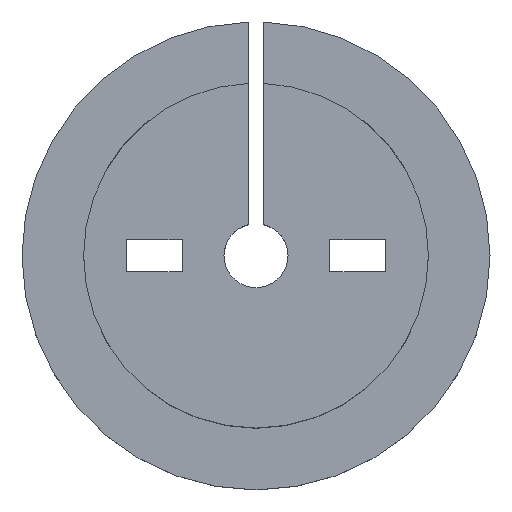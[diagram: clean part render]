
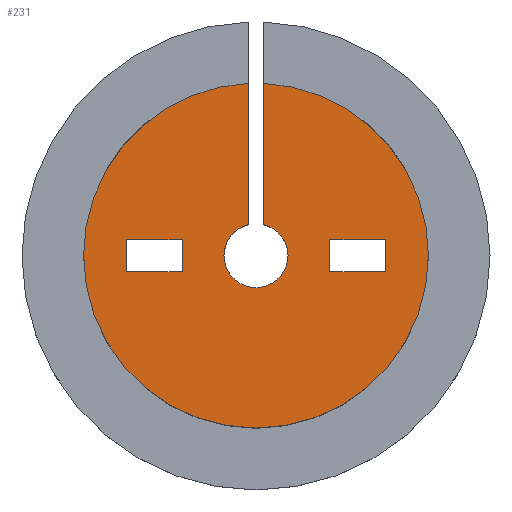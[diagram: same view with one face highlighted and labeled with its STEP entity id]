
A CAD part, top view. The second image highlights one B-rep face of the part: STEP entity #231.
In plain terms, the highlighted planar face has unit normal (0, 0, 1).
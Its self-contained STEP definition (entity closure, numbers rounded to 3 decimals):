
#7 = LINE ( 'NONE', #97, #478 ) ;
#22 = AXIS2_PLACEMENT_3D ( 'NONE', #391, #792, #965 ) ;
#36 = VECTOR ( 'NONE', #99, 1000. ) ;
#45 = VERTEX_POINT ( 'NONE', #733 ) ;
#47 = EDGE_CURVE ( 'NONE', #250, #83, #1061, .T. ) ;
#49 = DIRECTION ( 'NONE',  ( 0., 0., 1. ) ) ;
#63 = CARTESIAN_POINT ( 'NONE',  ( 0.6, 2.53, 16. ) ) ;
#65 = DIRECTION ( 'NONE',  ( 0., -1., 0. ) ) ;
#67 = ORIENTED_EDGE ( 'NONE', *, *, #726, .F. ) ;
#68 = ORIENTED_EDGE ( 'NONE', *, *, #714, .F. ) ;
#70 = CARTESIAN_POINT ( 'NONE',  ( 6., -1.3, 16. ) ) ;
#83 = VERTEX_POINT ( 'NONE', #960 ) ;
#88 = CIRCLE ( 'NONE', #119, 2.6 ) ;
#91 = EDGE_CURVE ( 'NONE', #45, #639, #221, .T. ) ;
#95 = DIRECTION ( 'NONE',  ( 0., 0., 1. ) ) ;
#96 = CARTESIAN_POINT ( 'NONE',  ( -0.6, 13.987, 16. ) ) ;
#97 = CARTESIAN_POINT ( 'NONE',  ( 10.5, 0., 16. ) ) ;
#99 = DIRECTION ( 'NONE',  ( -1., 0., 0. ) ) ;
#117 = DIRECTION ( 'NONE',  ( 0., 0., 1. ) ) ;
#119 = AXIS2_PLACEMENT_3D ( 'NONE', #413, #95, #328 ) ;
#122 = EDGE_CURVE ( 'NONE', #315, #411, #390, .T. ) ;
#136 = AXIS2_PLACEMENT_3D ( 'NONE', #532, #117, #188 ) ;
#150 = DIRECTION ( 'NONE',  ( 0., -1., 0. ) ) ;
#151 = ORIENTED_EDGE ( 'NONE', *, *, #91, .F. ) ;
#168 = DIRECTION ( 'NONE',  ( 0., 1., 0. ) ) ;
#176 = LINE ( 'NONE', #904, #305 ) ;
#179 = CARTESIAN_POINT ( 'NONE',  ( 0., -1.3, 16. ) ) ;
#186 = ORIENTED_EDGE ( 'NONE', *, *, #1018, .F. ) ;
#187 = EDGE_CURVE ( 'NONE', #452, #1026, #589, .T. ) ;
#188 = DIRECTION ( 'NONE',  ( 1., 0., 0. ) ) ;
#200 = CARTESIAN_POINT ( 'NONE',  ( -10.5, 0., 16. ) ) ;
#201 = EDGE_CURVE ( 'NONE', #411, #531, #176, .T. ) ;
#208 = VERTEX_POINT ( 'NONE', #826 ) ;
#213 = VERTEX_POINT ( 'NONE', #96 ) ;
#221 = LINE ( 'NONE', #793, #476 ) ;
#231 = ADVANCED_FACE ( 'NONE', ( #941, #859, #777 ), #1034, .T. ) ;
#237 = DIRECTION ( 'NONE',  ( 0., 0., 1. ) ) ;
#242 = VECTOR ( 'NONE', #245, 1000. ) ;
#245 = DIRECTION ( 'NONE',  ( 0., 1., 0. ) ) ;
#250 = VERTEX_POINT ( 'NONE', #451 ) ;
#259 = DIRECTION ( 'NONE',  ( 1., 0., 0. ) ) ;
#262 = CARTESIAN_POINT ( 'NONE',  ( -0.6, 2.53, 16. ) ) ;
#264 = EDGE_CURVE ( 'NONE', #888, #208, #290, .T. ) ;
#277 = DIRECTION ( 'NONE',  ( 0., 0., 1. ) ) ;
#278 = EDGE_LOOP ( 'NONE', ( #985, #541, #294, #617, #864, #307, #710, #561 ) ) ;
#290 = CIRCLE ( 'NONE', #458, 14. ) ;
#294 = ORIENTED_EDGE ( 'NONE', *, *, #264, .T. ) ;
#295 = CARTESIAN_POINT ( 'NONE',  ( 0., 0., 16. ) ) ;
#305 = VECTOR ( 'NONE', #168, 1000. ) ;
#307 = ORIENTED_EDGE ( 'NONE', *, *, #122, .F. ) ;
#315 = VERTEX_POINT ( 'NONE', #567 ) ;
#323 = CARTESIAN_POINT ( 'NONE',  ( 0., 1.3, 16. ) ) ;
#328 = DIRECTION ( 'NONE',  ( 1., 0., 0. ) ) ;
#329 = DIRECTION ( 'NONE',  ( 0., 0., 1. ) ) ;
#341 = CARTESIAN_POINT ( 'NONE',  ( 0., 0., 16. ) ) ;
#350 = DIRECTION ( 'NONE',  ( 0., -1., 0. ) ) ;
#368 = EDGE_LOOP ( 'NONE', ( #151, #757, #663, #67 ) ) ;
#390 = CIRCLE ( 'NONE', #773, 2.6 ) ;
#391 = CARTESIAN_POINT ( 'NONE',  ( 0., 0., 16. ) ) ;
#406 = CARTESIAN_POINT ( 'NONE',  ( 0.6, 13.987, 16. ) ) ;
#411 = VERTEX_POINT ( 'NONE', #63 ) ;
#412 = CIRCLE ( 'NONE', #136, 2.6 ) ;
#413 = CARTESIAN_POINT ( 'NONE',  ( 0., 0., 16. ) ) ;
#436 = EDGE_CURVE ( 'NONE', #213, #888, #838, .T. ) ;
#446 = LINE ( 'NONE', #179, #802 ) ;
#451 = CARTESIAN_POINT ( 'NONE',  ( -6., 1.3, 16. ) ) ;
#452 = VERTEX_POINT ( 'NONE', #867 ) ;
#458 = AXIS2_PLACEMENT_3D ( 'NONE', #295, #277, #943 ) ;
#476 = VECTOR ( 'NONE', #65, 1000. ) ;
#478 = VECTOR ( 'NONE', #575, 1000. ) ;
#483 = CARTESIAN_POINT ( 'NONE',  ( -6., 0., 16. ) ) ;
#505 = LINE ( 'NONE', #831, #36 ) ;
#508 = VERTEX_POINT ( 'NONE', #903 ) ;
#528 = EDGE_CURVE ( 'NONE', #852, #315, #88, .T. ) ;
#531 = VERTEX_POINT ( 'NONE', #406 ) ;
#532 = CARTESIAN_POINT ( 'NONE',  ( 0., 0., 16. ) ) ;
#541 = ORIENTED_EDGE ( 'NONE', *, *, #436, .T. ) ;
#544 = DIRECTION ( 'NONE',  ( 1., 0., 0. ) ) ;
#561 = ORIENTED_EDGE ( 'NONE', *, *, #786, .F. ) ;
#567 = CARTESIAN_POINT ( 'NONE',  ( 2.6, 0., 16. ) ) ;
#575 = DIRECTION ( 'NONE',  ( 0., 1., 0. ) ) ;
#581 = EDGE_CURVE ( 'NONE', #995, #45, #505, .T. ) ;
#589 = LINE ( 'NONE', #988, #999 ) ;
#609 = EDGE_CURVE ( 'NONE', #208, #531, #656, .T. ) ;
#617 = ORIENTED_EDGE ( 'NONE', *, *, #609, .T. ) ;
#628 = DIRECTION ( 'NONE',  ( 1., 0., 0. ) ) ;
#639 = VERTEX_POINT ( 'NONE', #70 ) ;
#655 = DIRECTION ( 'NONE',  ( -1., 0., 0. ) ) ;
#656 = CIRCLE ( 'NONE', #22, 14. ) ;
#663 = ORIENTED_EDGE ( 'NONE', *, *, #1023, .F. ) ;
#667 = DIRECTION ( 'NONE',  ( 1., 0., 0. ) ) ;
#678 = ORIENTED_EDGE ( 'NONE', *, *, #47, .F. ) ;
#681 = EDGE_CURVE ( 'NONE', #213, #713, #1035, .T. ) ;
#688 = AXIS2_PLACEMENT_3D ( 'NONE', #975, #237, #628 ) ;
#710 = ORIENTED_EDGE ( 'NONE', *, *, #528, .F. ) ;
#713 = VERTEX_POINT ( 'NONE', #262 ) ;
#714 = EDGE_CURVE ( 'NONE', #83, #452, #935, .T. ) ;
#726 = EDGE_CURVE ( 'NONE', #639, #508, #446, .T. ) ;
#733 = CARTESIAN_POINT ( 'NONE',  ( 6., 1.3, 16. ) ) ;
#736 = VECTOR ( 'NONE', #655, 1000. ) ;
#757 = ORIENTED_EDGE ( 'NONE', *, *, #581, .F. ) ;
#773 = AXIS2_PLACEMENT_3D ( 'NONE', #341, #329, #259 ) ;
#777 = FACE_OUTER_BOUND ( 'NONE', #278, .T. ) ;
#786 = EDGE_CURVE ( 'NONE', #713, #852, #412, .T. ) ;
#792 = DIRECTION ( 'NONE',  ( 0., 0., 1. ) ) ;
#793 = CARTESIAN_POINT ( 'NONE',  ( 6., 0., 16. ) ) ;
#802 = VECTOR ( 'NONE', #915, 1000. ) ;
#817 = AXIS2_PLACEMENT_3D ( 'NONE', #1020, #49, #544 ) ;
#826 = CARTESIAN_POINT ( 'NONE',  ( 14., 0., 16. ) ) ;
#827 = LINE ( 'NONE', #483, #242 ) ;
#831 = CARTESIAN_POINT ( 'NONE',  ( 0., 1.3, 16. ) ) ;
#838 = CIRCLE ( 'NONE', #688, 14. ) ;
#852 = VERTEX_POINT ( 'NONE', #961 ) ;
#859 = FACE_BOUND ( 'NONE', #368, .T. ) ;
#864 = ORIENTED_EDGE ( 'NONE', *, *, #201, .F. ) ;
#867 = CARTESIAN_POINT ( 'NONE',  ( -10.5, -1.3, 16. ) ) ;
#873 = VECTOR ( 'NONE', #150, 1000. ) ;
#888 = VERTEX_POINT ( 'NONE', #1037 ) ;
#903 = CARTESIAN_POINT ( 'NONE',  ( 10.5, -1.3, 16. ) ) ;
#904 = CARTESIAN_POINT ( 'NONE',  ( 0.6, 2.2, 16. ) ) ;
#915 = DIRECTION ( 'NONE',  ( 1., 0., 0. ) ) ;
#920 = CARTESIAN_POINT ( 'NONE',  ( 10.5, 1.3, 16. ) ) ;
#935 = LINE ( 'NONE', #200, #1048 ) ;
#938 = ORIENTED_EDGE ( 'NONE', *, *, #187, .F. ) ;
#941 = FACE_BOUND ( 'NONE', #1007, .T. ) ;
#943 = DIRECTION ( 'NONE',  ( 1., 0., 0. ) ) ;
#960 = CARTESIAN_POINT ( 'NONE',  ( -10.5, 1.3, 16. ) ) ;
#961 = CARTESIAN_POINT ( 'NONE',  ( -2.6, 0., 16. ) ) ;
#965 = DIRECTION ( 'NONE',  ( 1., 0., 0. ) ) ;
#975 = CARTESIAN_POINT ( 'NONE',  ( 0., 0., 16. ) ) ;
#985 = ORIENTED_EDGE ( 'NONE', *, *, #681, .F. ) ;
#988 = CARTESIAN_POINT ( 'NONE',  ( 0., -1.3, 16. ) ) ;
#995 = VERTEX_POINT ( 'NONE', #920 ) ;
#999 = VECTOR ( 'NONE', #667, 1000. ) ;
#1002 = CARTESIAN_POINT ( 'NONE',  ( -6., -1.3, 16. ) ) ;
#1007 = EDGE_LOOP ( 'NONE', ( #68, #678, #186, #938 ) ) ;
#1018 = EDGE_CURVE ( 'NONE', #1026, #250, #827, .T. ) ;
#1020 = CARTESIAN_POINT ( 'NONE',  ( 0., 0., 16. ) ) ;
#1023 = EDGE_CURVE ( 'NONE', #508, #995, #7, .T. ) ;
#1026 = VERTEX_POINT ( 'NONE', #1002 ) ;
#1029 = CARTESIAN_POINT ( 'NONE',  ( -0.6, 2.2, 16. ) ) ;
#1034 = PLANE ( 'NONE',  #817 ) ;
#1035 = LINE ( 'NONE', #1029, #873 ) ;
#1037 = CARTESIAN_POINT ( 'NONE',  ( -14., 0., 16. ) ) ;
#1048 = VECTOR ( 'NONE', #350, 1000. ) ;
#1061 = LINE ( 'NONE', #323, #736 ) ;
